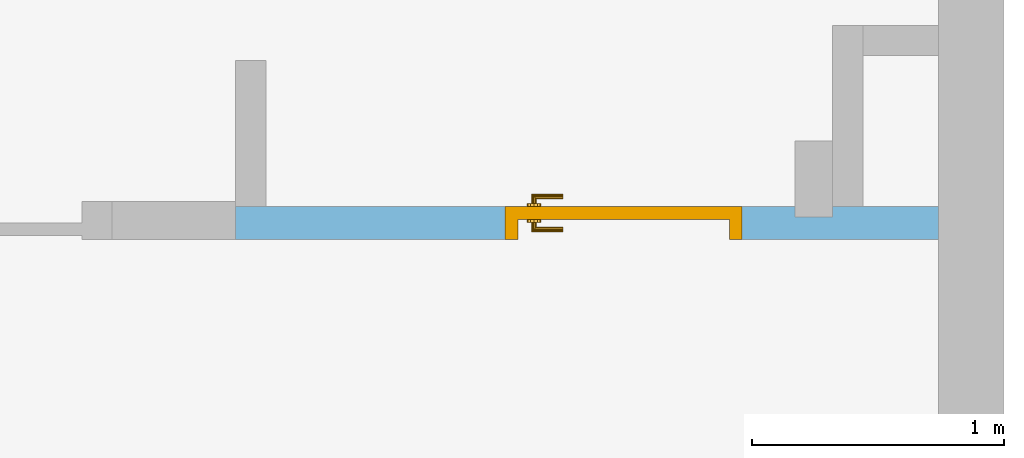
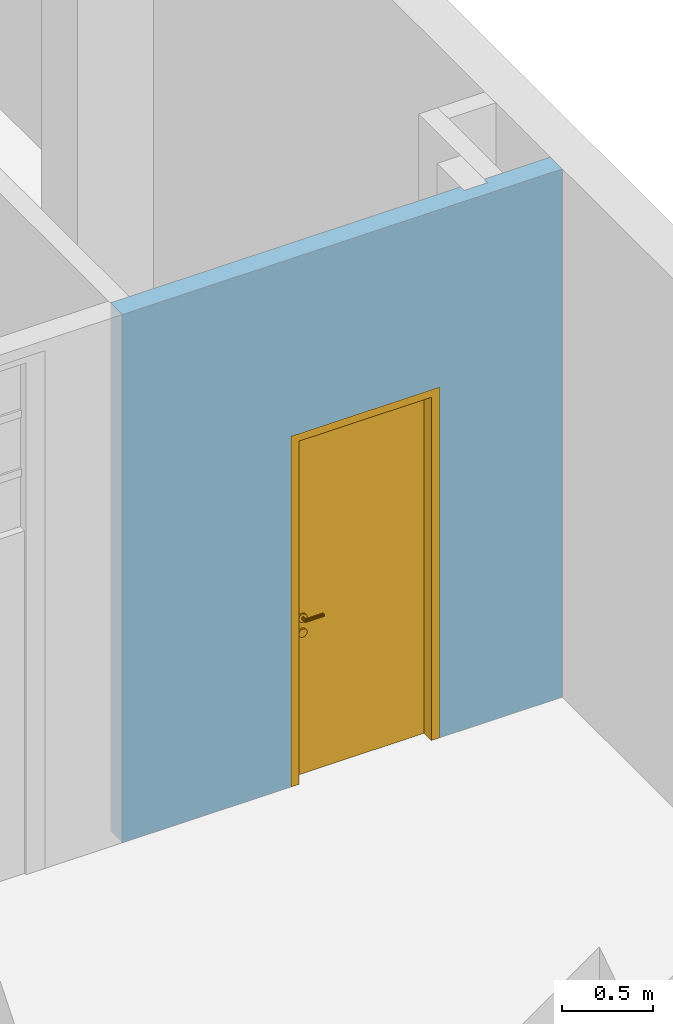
"""IFC4 building model written with IfcOpenShell, lengths in metres."""

from ifc_helpers import new_model, entity, si_unit, converted_unit, derived_unit, frame, origin, origin_with_axes, place, context, subcontext, project, spatial, polyline, outline, extrude, faceted_brep, source, transform, mapped, material, layer, layer_set, layer_usage, type_object, element, fill, save


model = new_model("IFC4")

# Units and contexts
model_context = context("Model", 3, precision=1e-05, world=origin())
body_context = subcontext(model_context, "Body", "Model", "MODEL_VIEW")
ifc_project = project(units=[si_unit("LENGTHUNIT", "METRE"), si_unit("AREAUNIT", "SQUARE_METRE"), si_unit("VOLUMEUNIT", "CUBIC_METRE"), si_unit("MASSUNIT", "GRAM", prefix="KILO"), converted_unit("PLANEANGLEUNIT", "DEGREE", entity("IfcPlaneAngleMeasure", 0.0174532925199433), si_unit("PLANEANGLEUNIT", "RADIAN"), dimensions=[0, 0, 0, 0, 0, 0, 0]), derived_unit("THERMALTRANSMITTANCEUNIT", [(si_unit("POWERUNIT", "WATT"), 1), (si_unit("THERMODYNAMICTEMPERATUREUNIT", "KELVIN"), -1), (si_unit("LENGTHUNIT", "METRE"), -2)]), derived_unit("VOLUMETRICFLOWRATEUNIT", [(si_unit("LENGTHUNIT", "METRE"), 3), (converted_unit("TIMEUNIT", "hour", entity("IfcTimeMeasure", 3600.0), si_unit("TIMEUNIT", "SECOND"), dimensions=[0, 0, 1, 0, 0, 0, 0]), -1), (si_unit("LENGTHUNIT", "METRE"), -1)])], contexts=[model_context])

# Building, storeys
building_placement = place(None, origin())
building = spatial("IfcBuilding", under=ifc_project, at=building_placement, Name="Bestandsgebäude A - Sporthalle / Wohnhaus (TB 100-499)   ANPASSEN !!!", CompositionType="ELEMENT")
storey_1_placement = place(building_placement, frame((0.0, 0.0, 3.87)))
storey_1 = spatial("IfcBuildingStorey", under=building, at=storey_1_placement, Name="Geb. A 1. Obergeschoss (TB 250-299)", CompositionType="ELEMENT", Elevation=3.87)
storey_2_placement = place(storey_1_placement, frame((0.0, 0.0, 3.87)))
storey_2 = spatial("IfcBuildingStorey", under=storey_1, at=storey_2_placement, Name="Architektur (TB 250-259)", CompositionType="PARTIAL")

# Wall, opening, door
ifc_material = material(Name="masonry")
ifc_layer = layer(ifc_material, 0.13)
ifc_layer_set = layer_set([ifc_layer])
ifc_layer_usage = layer_usage(ifc_layer_set, "AXIS2", "POSITIVE", 0.0)
wall_placement = place(storey_2_placement, frame((-3.04999999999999, 4.36, -3.97)))
wall = element("IfcWall", 1, at=wall_placement, inside=storey_2, material=ifc_layer_usage, Name="masonry load-bearing", PredefinedType="USERDEFINED", context=body_context, shape_type="SweptSolid", body=[
    extrude(outline(polyline([(0.0, 0.0), (2.78999999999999, 0.0), (2.78999999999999, 0.13), (2.36999999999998, 0.13), (2.36999999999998, 0.0900000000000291), (2.21999999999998, 0.0900000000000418), (2.21999999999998, 0.13), (0.0, 0.13), (0.0, 0.0)])), origin_with_axes(), (0.0, 0.0, 1.0), 3.54),
])
opening_placement = place(wall_placement, frame((1.07, 0.0, 0.0), z_axis=(0.0, 1.0, 0.0), x_axis=(0.0, 0.0, 1.0)))
opening = element("IfcOpeningElement", 2, at=opening_placement, cuts=wall, Name="Door opening", PredefinedType="OPENING", context=body_context, shape_type="SweptSolid", body=[
    extrude(outline(polyline([(2.35, 0.94), (2.35, 0.0), (0.0, 0.0), (0.0, 0.94), (2.35, 0.94)])), origin_with_axes(), (0.0, 0.0, 1.0), 0.13),
])
door_type = type_object("IfcDoorType", Name="door", OperationType="SINGLE_SWING_RIGHT", ParameterTakesPrecedence=False, PredefinedType="DOOR")
shared_shape = source(origin_with_axes(), body_context, "Body", "Brep", [
    faceted_brep([(0.0, 0.130000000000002, 2.35), (0.0, 0.130000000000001, 0.0), (0.05, 0.130000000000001, 0.0), (0.05, 0.130000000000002, 2.35), (0.0, 0.0, 0.0), (0.0, 0.0, 2.35), (0.05, 0.0, 2.35), (0.05, 0.0, 0.0)], [[[0, 1, 2, 3]], [[4, 5, 6, 7]], [[1, 0, 5, 4]], [[2, 1, 4, 7]], [[3, 2, 7, 6]], [[0, 3, 6, 5]]], orient=[[False], [False], [False], [False], [False], [False]]),
    faceted_brep([(0.89, 0.130000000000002, 2.35), (0.89, 0.130000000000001, 0.0), (0.94, 0.130000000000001, 0.0), (0.94, 0.130000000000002, 2.35), (0.89, 0.0, 0.0), (0.89, 0.0, 2.35), (0.94, 0.0, 2.35), (0.94, 0.0, 0.0)], [[[0, 1, 2, 3]], [[4, 5, 6, 7]], [[1, 0, 5, 4]], [[2, 1, 4, 7]], [[3, 2, 7, 6]], [[0, 3, 6, 5]]], orient=[[False], [False], [False], [False], [False], [False]]),
    faceted_brep([(0.05, 0.130000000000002, 2.35), (0.05, 0.130000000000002, 2.3), (0.89, 0.130000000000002, 2.3), (0.89, 0.130000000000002, 2.35), (0.05, 0.0, 2.3), (0.05, 0.0, 2.35), (0.89, 0.0, 2.35), (0.89, 0.0, 2.3)], [[[0, 1, 2, 3]], [[4, 5, 6, 7]], [[1, 0, 5, 4]], [[2, 1, 4, 7]], [[3, 2, 7, 6]], [[0, 3, 6, 5]]], orient=[[False], [False], [False], [False], [False], [False]]),
    faceted_brep([(0.05, 0.130000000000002, 2.3), (0.05, 0.130000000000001, 0.0), (0.89, 0.130000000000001, 0.0), (0.89, 0.130000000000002, 2.3), (0.05, 0.0800000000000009, 0.0), (0.05, 0.0800000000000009, 2.3), (0.89, 0.0800000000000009, 2.3), (0.89, 0.0800000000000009, 0.0)], [[[0, 1, 2, 3]], [[4, 5, 6, 7]], [[1, 0, 5, 4]], [[2, 1, 4, 7]], [[3, 2, 7, 6]], [[0, 3, 6, 5]]], orient=[[False], [False], [False], [False], [False], [False]]),
    faceted_brep([(0.138815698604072, 0.0800000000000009, 0.93625), (0.1425, 0.0800000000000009, 0.95), (0.138815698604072, 0.0800000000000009, 0.96375), (0.12875, 0.0800000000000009, 0.973815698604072), (0.115, 0.0800000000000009, 0.9775), (0.10125, 0.0800000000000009, 0.973815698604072), (0.0911843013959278, 0.0800000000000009, 0.96375), (0.0875, 0.0800000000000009, 0.95), (0.0911843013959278, 0.0800000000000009, 0.93625), (0.10125, 0.0800000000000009, 0.926184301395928), (0.115, 0.0800000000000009, 0.9225), (0.12875, 0.0800000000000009, 0.926184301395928), (0.1425, 0.0675000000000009, 0.95), (0.138815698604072, 0.0675000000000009, 0.93625), (0.12875, 0.0675000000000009, 0.926184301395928), (0.115, 0.0675000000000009, 0.9225), (0.10125, 0.0675000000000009, 0.926184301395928), (0.0911843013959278, 0.0675000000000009, 0.93625), (0.0875, 0.0675000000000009, 0.95), (0.0911843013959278, 0.0675000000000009, 0.96375), (0.10125, 0.0675000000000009, 0.973815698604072), (0.115, 0.0675000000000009, 0.9775), (0.12875, 0.0675000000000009, 0.973815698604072), (0.138815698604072, 0.0675000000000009, 0.96375)], [[[0, 1, 2, 3, 4, 5, 6, 7, 8, 9, 10, 11]], [[12, 13, 14, 15, 16, 17, 18, 19, 20, 21, 22, 23]], [[1, 0, 13, 12]], [[2, 1, 12, 23]], [[3, 2, 23, 22]], [[4, 3, 22, 21]], [[5, 4, 21, 20]], [[6, 5, 20, 19]], [[7, 6, 19, 18]], [[8, 7, 18, 17]], [[9, 8, 17, 16]], [[10, 9, 16, 15]], [[11, 10, 15, 14]], [[0, 11, 14, 13]]], orient=[[False], [False], [False], [False], [False], [False], [False], [False], [False], [False], [False], [False], [False], [False]]),
    faceted_brep([(0.138815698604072, 0.0800000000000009, 1.03625), (0.1425, 0.0800000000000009, 1.05), (0.138815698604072, 0.0800000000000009, 1.06375), (0.12875, 0.0800000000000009, 1.07381569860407), (0.115, 0.0800000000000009, 1.0775), (0.10125, 0.0800000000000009, 1.07381569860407), (0.0911843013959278, 0.0800000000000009, 1.06375), (0.0875, 0.0800000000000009, 1.05), (0.0911843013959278, 0.0800000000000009, 1.03625), (0.10125, 0.0800000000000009, 1.02618430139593), (0.115, 0.0800000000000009, 1.0225), (0.12875, 0.0800000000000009, 1.02618430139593), (0.1425, 0.0675000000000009, 1.05), (0.138815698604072, 0.0675000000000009, 1.03625), (0.12875, 0.0675000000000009, 1.02618430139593), (0.115, 0.0675000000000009, 1.0225), (0.10125, 0.0675000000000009, 1.02618430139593), (0.0911843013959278, 0.0675000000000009, 1.03625), (0.0875, 0.0675000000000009, 1.05), (0.0911843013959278, 0.0675000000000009, 1.06375), (0.10125, 0.0675000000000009, 1.07381569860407), (0.115, 0.0675000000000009, 1.0775), (0.12875, 0.0675000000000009, 1.07381569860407), (0.138815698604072, 0.0675000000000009, 1.06375)], [[[0, 1, 2, 3, 4, 5, 6, 7, 8, 9, 10, 11]], [[12, 13, 14, 15, 16, 17, 18, 19, 20, 21, 22, 23]], [[1, 0, 13, 12]], [[2, 1, 12, 23]], [[3, 2, 23, 22]], [[4, 3, 22, 21]], [[5, 4, 21, 20]], [[6, 5, 20, 19]], [[7, 6, 19, 18]], [[8, 7, 18, 17]], [[9, 8, 17, 16]], [[10, 9, 16, 15]], [[11, 10, 15, 14]], [[0, 11, 14, 13]]], orient=[[False], [False], [False], [False], [False], [False], [False], [False], [False], [False], [False], [False], [False], [False]]),
    faceted_brep([(0.115, 0.0800000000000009, 1.06), (0.11, 0.0800000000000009, 1.05866025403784), (0.106339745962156, 0.0800000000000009, 1.055), (0.105, 0.0800000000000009, 1.05), (0.106339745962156, 0.0800000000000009, 1.045), (0.11, 0.0800000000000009, 1.04133974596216), (0.115, 0.0800000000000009, 1.04), (0.12, 0.0800000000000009, 1.04133974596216), (0.123660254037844, 0.0800000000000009, 1.045), (0.125, 0.0800000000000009, 1.05), (0.123660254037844, 0.0800000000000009, 1.055), (0.12, 0.0800000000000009, 1.05866025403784), (0.115, 0.0400000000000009, 1.06), (0.11, 0.0350000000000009, 1.05866025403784), (0.106339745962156, 0.0313397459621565, 1.055), (0.105, 0.03, 1.05), (0.106339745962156, 0.0313397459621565, 1.045), (0.11, 0.0350000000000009, 1.04133974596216), (0.115, 0.0400000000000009, 1.04), (0.12, 0.0450000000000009, 1.04133974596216), (0.123660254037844, 0.0486602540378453, 1.045), (0.125, 0.0500000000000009, 1.05), (0.123660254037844, 0.0486602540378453, 1.055), (0.12, 0.0450000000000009, 1.05866025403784), (0.23, 0.0400000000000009, 1.06), (0.23, 0.0450000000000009, 1.05866025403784), (0.23, 0.0486602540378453, 1.055), (0.23, 0.0500000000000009, 1.05), (0.23, 0.0486602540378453, 1.045), (0.23, 0.0450000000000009, 1.04133974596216), (0.23, 0.0400000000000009, 1.04), (0.23, 0.0350000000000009, 1.04133974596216), (0.23, 0.0313397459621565, 1.045), (0.23, 0.03, 1.05), (0.23, 0.0313397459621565, 1.055), (0.23, 0.0350000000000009, 1.05866025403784)], [[[0, 1, 2, 3, 4, 5, 6, 7, 8, 9, 10, 11]], [[0, 12, 13, 1]], [[1, 13, 14, 2]], [[2, 14, 15, 3]], [[3, 15, 16, 4]], [[4, 16, 17, 5]], [[5, 17, 18, 6]], [[6, 18, 19, 7]], [[7, 19, 20, 8]], [[8, 20, 21, 9]], [[9, 21, 22, 10]], [[10, 22, 23, 11]], [[11, 23, 12, 0]], [[24, 25, 26, 27, 28, 29, 30, 31, 32, 33, 34, 35]], [[12, 24, 35, 13]], [[13, 35, 34, 14]], [[14, 34, 33, 15]], [[15, 33, 32, 16]], [[16, 32, 31, 17]], [[17, 31, 30, 18]], [[18, 30, 29, 19]], [[19, 29, 28, 20]], [[20, 28, 27, 21]], [[21, 27, 26, 22]], [[22, 26, 25, 23]], [[23, 25, 24, 12]]], orient=[[False], [False], [False], [False], [False], [False], [False], [False], [False], [False], [False], [False], [False], [False], [False], [False], [False], [False], [False], [False], [False], [False], [False], [False], [False], [False]]),
    faceted_brep([(0.138815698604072, 0.130000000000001, 0.93625), (0.12875, 0.130000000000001, 0.926184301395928), (0.115, 0.130000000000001, 0.9225), (0.10125, 0.130000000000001, 0.926184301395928), (0.0911843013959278, 0.130000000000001, 0.93625), (0.0875, 0.130000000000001, 0.95), (0.0911843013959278, 0.130000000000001, 0.96375), (0.10125, 0.130000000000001, 0.973815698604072), (0.115, 0.130000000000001, 0.9775), (0.12875, 0.130000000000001, 0.973815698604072), (0.138815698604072, 0.130000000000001, 0.96375), (0.1425, 0.130000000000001, 0.95), (0.1425, 0.142500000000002, 0.95), (0.138815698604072, 0.142500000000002, 0.96375), (0.12875, 0.142500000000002, 0.973815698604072), (0.115, 0.142500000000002, 0.9775), (0.10125, 0.142500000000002, 0.973815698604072), (0.0911843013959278, 0.142500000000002, 0.96375), (0.0875, 0.142500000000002, 0.95), (0.0911843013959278, 0.142500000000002, 0.93625), (0.10125, 0.142500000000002, 0.926184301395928), (0.115, 0.142500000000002, 0.9225), (0.12875, 0.142500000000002, 0.926184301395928), (0.138815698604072, 0.142500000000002, 0.93625)], [[[0, 1, 2, 3, 4, 5, 6, 7, 8, 9, 10, 11]], [[12, 13, 14, 15, 16, 17, 18, 19, 20, 21, 22, 23]], [[11, 12, 23, 0]], [[10, 13, 12, 11]], [[9, 14, 13, 10]], [[8, 15, 14, 9]], [[7, 16, 15, 8]], [[6, 17, 16, 7]], [[5, 18, 17, 6]], [[4, 19, 18, 5]], [[3, 20, 19, 4]], [[2, 21, 20, 3]], [[1, 22, 21, 2]], [[0, 23, 22, 1]]], orient=[[False], [False], [False], [False], [False], [False], [False], [False], [False], [False], [False], [False], [False], [False]]),
    faceted_brep([(0.138815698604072, 0.130000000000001, 1.03625), (0.12875, 0.130000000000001, 1.02618430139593), (0.115, 0.130000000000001, 1.0225), (0.10125, 0.130000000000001, 1.02618430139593), (0.0911843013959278, 0.130000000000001, 1.03625), (0.0875, 0.130000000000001, 1.05), (0.0911843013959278, 0.130000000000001, 1.06375), (0.10125, 0.130000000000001, 1.07381569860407), (0.115, 0.130000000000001, 1.0775), (0.12875, 0.130000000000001, 1.07381569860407), (0.138815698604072, 0.130000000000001, 1.06375), (0.1425, 0.130000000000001, 1.05), (0.1425, 0.142500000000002, 1.05), (0.138815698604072, 0.142500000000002, 1.06375), (0.12875, 0.142500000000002, 1.07381569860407), (0.115, 0.142500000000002, 1.0775), (0.10125, 0.142500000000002, 1.07381569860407), (0.0911843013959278, 0.142500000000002, 1.06375), (0.0875, 0.142500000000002, 1.05), (0.0911843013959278, 0.142500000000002, 1.03625), (0.10125, 0.142500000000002, 1.02618430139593), (0.115, 0.142500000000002, 1.0225), (0.12875, 0.142500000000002, 1.02618430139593), (0.138815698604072, 0.142500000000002, 1.03625)], [[[0, 1, 2, 3, 4, 5, 6, 7, 8, 9, 10, 11]], [[12, 13, 14, 15, 16, 17, 18, 19, 20, 21, 22, 23]], [[11, 12, 23, 0]], [[10, 13, 12, 11]], [[9, 14, 13, 10]], [[8, 15, 14, 9]], [[7, 16, 15, 8]], [[6, 17, 16, 7]], [[5, 18, 17, 6]], [[4, 19, 18, 5]], [[3, 20, 19, 4]], [[2, 21, 20, 3]], [[1, 22, 21, 2]], [[0, 23, 22, 1]]], orient=[[False], [False], [False], [False], [False], [False], [False], [False], [False], [False], [False], [False], [False], [False]]),
    faceted_brep([(0.115, 0.130000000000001, 1.06), (0.12, 0.130000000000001, 1.05866025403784), (0.123660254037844, 0.130000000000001, 1.055), (0.125, 0.130000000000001, 1.05), (0.123660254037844, 0.130000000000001, 1.045), (0.12, 0.130000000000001, 1.04133974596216), (0.115, 0.130000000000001, 1.04), (0.11, 0.130000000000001, 1.04133974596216), (0.106339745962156, 0.130000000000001, 1.045), (0.105, 0.130000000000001, 1.05), (0.106339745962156, 0.130000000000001, 1.055), (0.11, 0.130000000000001, 1.05866025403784), (0.11, 0.175000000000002, 1.05866025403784), (0.115, 0.170000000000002, 1.06), (0.106339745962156, 0.178660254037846, 1.055), (0.105, 0.180000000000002, 1.05), (0.106339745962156, 0.178660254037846, 1.045), (0.11, 0.175000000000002, 1.04133974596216), (0.115, 0.170000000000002, 1.04), (0.12, 0.165000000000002, 1.04133974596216), (0.123660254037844, 0.161339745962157, 1.045), (0.125, 0.160000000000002, 1.05), (0.123660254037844, 0.161339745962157, 1.055), (0.12, 0.165000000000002, 1.05866025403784), (0.23, 0.170000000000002, 1.06), (0.23, 0.175000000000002, 1.05866025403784), (0.23, 0.178660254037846, 1.055), (0.23, 0.180000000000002, 1.05), (0.23, 0.178660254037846, 1.045), (0.23, 0.175000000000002, 1.04133974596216), (0.23, 0.170000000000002, 1.04), (0.23, 0.165000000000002, 1.04133974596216), (0.23, 0.161339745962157, 1.045), (0.23, 0.160000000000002, 1.05), (0.23, 0.161339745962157, 1.055), (0.23, 0.165000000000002, 1.05866025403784)], [[[0, 1, 2, 3, 4, 5, 6, 7, 8, 9, 10, 11]], [[0, 11, 12, 13]], [[11, 10, 14, 12]], [[10, 9, 15, 14]], [[9, 8, 16, 15]], [[8, 7, 17, 16]], [[7, 6, 18, 17]], [[6, 5, 19, 18]], [[5, 4, 20, 19]], [[4, 3, 21, 20]], [[3, 2, 22, 21]], [[2, 1, 23, 22]], [[1, 0, 13, 23]], [[24, 25, 26, 27, 28, 29, 30, 31, 32, 33, 34, 35]], [[13, 12, 25, 24]], [[12, 14, 26, 25]], [[14, 15, 27, 26]], [[15, 16, 28, 27]], [[16, 17, 29, 28]], [[17, 18, 30, 29]], [[18, 19, 31, 30]], [[19, 20, 32, 31]], [[20, 21, 33, 32]], [[21, 22, 34, 33]], [[22, 23, 35, 34]], [[23, 13, 24, 35]]], orient=[[False], [False], [False], [False], [False], [False], [False], [False], [False], [False], [False], [False], [False], [False], [False], [False], [False], [False], [False], [False], [False], [False], [False], [False], [False], [False]]),
])
door_placement = place(opening_placement, frame((0.0, 0.0, 0.0), z_axis=(1.0, 0.0, 0.0), x_axis=(0.0, 1.0, 0.0)))
door = element("IfcDoor", 3, at=door_placement, inside=storey_2, type_object=door_type, Name="door", OverallHeight=2.35, OverallWidth=0.94, PredefinedType="DOOR", context=body_context, shape_type="MappedRepresentation", body=[
    mapped(shared_shape, transform((0.0, 0.0, 0.0), x_axis=(1.0, 0.0, 0.0), y_axis=(0.0, 1.0, 0.0), z_axis=(0.0, 0.0, 1.0), scale=1.0)),
])
fill(opening, door)

save(model, "model.ifc")
